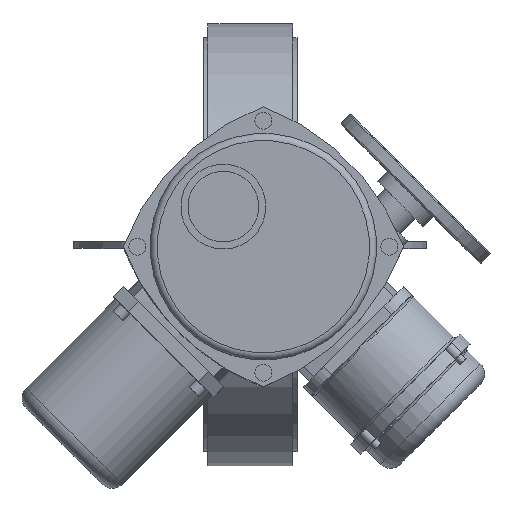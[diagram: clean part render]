
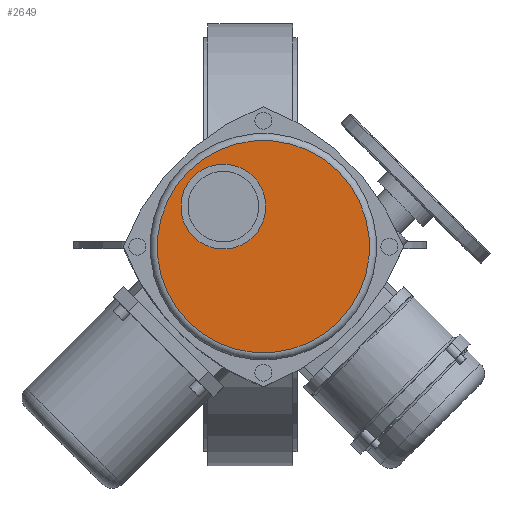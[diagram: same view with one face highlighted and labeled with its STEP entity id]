
A CAD part, top view. The second image highlights one B-rep face of the part: STEP entity #2649.
In plain terms, the highlighted planar face has unit normal (0, 0, 1).
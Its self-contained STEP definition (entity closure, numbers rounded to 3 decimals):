
#2649=ADVANCED_FACE('',(#5595,#5597),#5599,.T.);
#5595=FACE_BOUND('',#5596,.T.);
#5596=EDGE_LOOP('',(#7000));
#5597=FACE_BOUND('',#5598,.T.);
#5598=EDGE_LOOP('',(#7001));
#5599=PLANE('',#5600);
#5600=AXIS2_PLACEMENT_3D('',#5601,#5602,#5603);
#5601=CARTESIAN_POINT('',(9.192,-2.121,467.));
#5602=DIRECTION('',(0.,0.,1.));
#5603=DIRECTION('',(0.707,0.707,0.));
#7000=ORIENTED_EDGE('',*,*,#7626,.T.);
#7001=ORIENTED_EDGE('',*,*,#7669,.F.);
#7626=EDGE_CURVE('',#8686,#8686,#8687,.T.);
#7669=EDGE_CURVE('',#8754,#8754,#8755,.T.);
#8686=VERTEX_POINT('',#13197);
#8687=CIRCLE('',#13198,75.);
#8754=VERTEX_POINT('',#13390);
#8755=CIRCLE('',#13391,30.);
#13197=CARTESIAN_POINT('',(62.225,50.912,467.));
#13198=AXIS2_PLACEMENT_3D('',#13199,#13200,#13201);
#13199=CARTESIAN_POINT('',(9.192,-2.121,467.));
#13200=DIRECTION('',(0.,0.,1.));
#13201=DIRECTION('',(0.707,0.707,0.));
#13390=CARTESIAN_POINT('',(2.121,47.376,467.));
#13391=AXIS2_PLACEMENT_3D('',#13392,#13393,#13394);
#13392=CARTESIAN_POINT('',(-19.092,26.163,467.));
#13393=DIRECTION('',(0.,0.,1.));
#13394=DIRECTION('',(0.707,0.707,0.));
